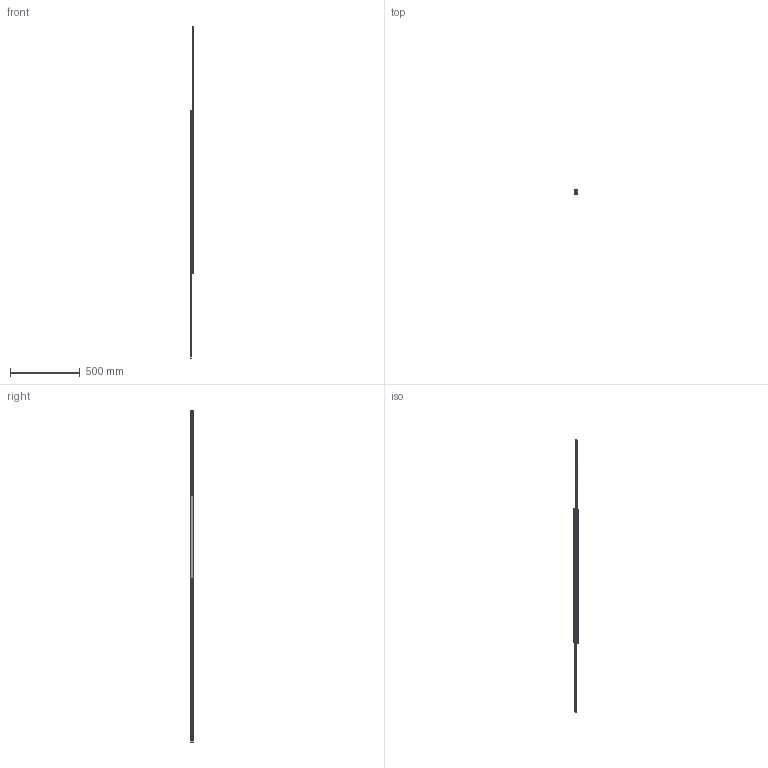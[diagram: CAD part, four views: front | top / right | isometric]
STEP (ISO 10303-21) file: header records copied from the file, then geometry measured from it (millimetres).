
FILE_DESCRIPTION( ( 'STEP AP214' ), '1' );
FILE_NAME( 'p:/temp/worker_81/temp/exporttempdir_3564_2027_0oLbI/format_0/DEF28-11701202.stp', '2020-03-20T19:48:38', ( 'License CC BY-ND 4.0' ), ( 'CADENAS' ), ' ', 'PARTsolutions', ' ' );
FILE_SCHEMA( ( 'AUTOMOTIVE_DESIGN { 1 0 10303 214 1 1 1 1 }' ) );
Length unit declared in the file: millimetre
Products named in the file (4): DEF28-11701202; _28211170120212-gf; _2821117012021-ei; _28211170120211-gf
Assembly tree (4 placements, depth 2):
  DEF28-11701202
    _28211170120212-gf
    _2821117012021-ei  x2
    _28211170120211-gf
Bounding box: 26 x 28 x 2372 mm (x, y, z)
Volume: 567313.5 mm3; surface area: 337847.7 mm2
Topology: 4 solids, 4 shells, 240 faces, 598 edges, 378 vertices
Faces by surface type: plane 102, cylinder 74, cone 64
Full cylindrical faces by diameter (mm): 4.134 x30, 5 x2
Entity records: 6956 total; most frequent: DIRECTION 964, CARTESIAN_POINT 876, ORIENTED_EDGE 764, AXIS2_PLACEMENT_3D 384, EDGE_CURVE 382, EDGE_LOOP 354, VERTEX_POINT 296, FACE_OUTER_BOUND 224
